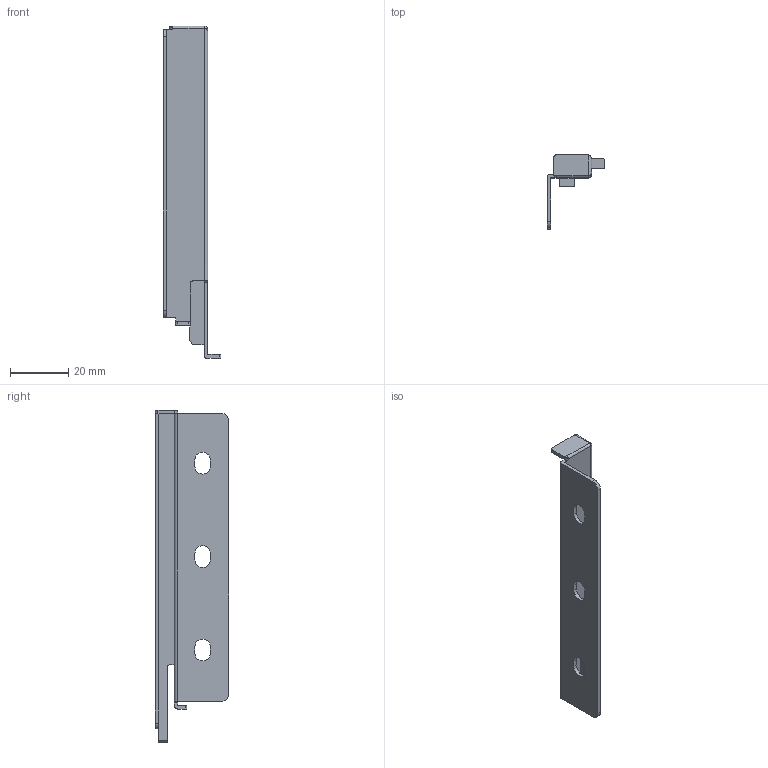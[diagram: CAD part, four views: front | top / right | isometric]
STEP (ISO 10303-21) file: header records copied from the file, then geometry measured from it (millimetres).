
FILE_DESCRIPTION (( 'STEP AP203' ), '1' );
FILE_NAME ('HT12031-R.STEP', '2021-03-16T01:54:32', ( 'Users' ), ( 'Microsoft' ), 'SwSTEP 2.0', 'SolidWorks 2018', '' );
FILE_SCHEMA (( 'CONFIG_CONTROL_DESIGN' ));
Length unit declared in the file: millimetre
Products named in the file (1): HT12031-R
Bounding box: 19.8 x 25.3 x 113.7 mm (x, y, z)
Volume: 5194 mm3; surface area: 9153.2 mm2
Topology: 1 solids, 1 shells, 61 faces, 172 edges, 112 vertices
Faces by surface type: plane 33, cylinder 27, bspline 1
Entity records: 2112 total; most frequent: CARTESIAN_POINT 422, ORIENTED_EDGE 342, DIRECTION 335, EDGE_CURVE 171, LINE 117, VECTOR 117, VERTEX_POINT 112, AXIS2_PLACEMENT_3D 109
